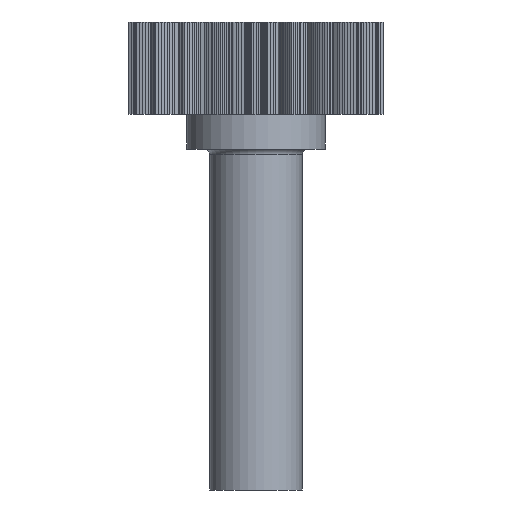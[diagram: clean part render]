
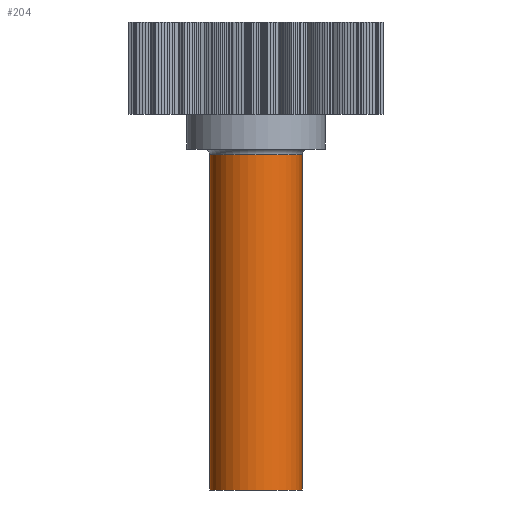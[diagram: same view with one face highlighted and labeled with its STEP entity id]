
A CAD part, front view. The second image highlights one B-rep face of the part: STEP entity #204.
In plain terms, the highlighted cylindrical face has radius 3.993 mm (diameter 7.985 mm), a full revolution.
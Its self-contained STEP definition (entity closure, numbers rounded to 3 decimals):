
#47 = TOROIDAL_SURFACE('',#48,4.493,0.5);
#48 = AXIS2_PLACEMENT_3D('',#49,#50,#51);
#49 = CARTESIAN_POINT('',(6.,0.,92.));
#50 = DIRECTION('',(0.,0.,1.));
#51 = DIRECTION('',(0.,1.,-0.));
#94 = VERTEX_POINT('',#95);
#95 = CARTESIAN_POINT('',(6.,3.993,92.));
#119 = EDGE_CURVE('',#94,#94,#120,.T.);
#120 = SURFACE_CURVE('',#121,(#126,#133),.PCURVE_S1.);
#121 = CIRCLE('',#122,3.993);
#122 = AXIS2_PLACEMENT_3D('',#123,#124,#125);
#123 = CARTESIAN_POINT('',(6.,0.,92.));
#124 = DIRECTION('',(0.,-0.,-1.));
#125 = DIRECTION('',(0.,1.,-0.));
#126 = PCURVE('',#47,#127);
#127 = DEFINITIONAL_REPRESENTATION('',(#128),#132);
#128 = LINE('',#129,#130);
#129 = CARTESIAN_POINT('',(-0.,3.142));
#130 = VECTOR('',#131,1.);
#131 = DIRECTION('',(-1.,0.));
#132 = ( GEOMETRIC_REPRESENTATION_CONTEXT(2) 
PARAMETRIC_REPRESENTATION_CONTEXT() REPRESENTATION_CONTEXT('2D SPACE',''
  ) );
#133 = PCURVE('',#134,#139);
#134 = CYLINDRICAL_SURFACE('',#135,3.993);
#135 = AXIS2_PLACEMENT_3D('',#136,#137,#138);
#136 = CARTESIAN_POINT('',(6.,0.,63.));
#137 = DIRECTION('',(-0.,0.,-1.));
#138 = DIRECTION('',(0.,1.,0.));
#139 = DEFINITIONAL_REPRESENTATION('',(#140),#144);
#140 = LINE('',#141,#142);
#141 = CARTESIAN_POINT('',(-6.283,-29.));
#142 = VECTOR('',#143,1.);
#143 = DIRECTION('',(1.,-0.));
#144 = ( GEOMETRIC_REPRESENTATION_CONTEXT(2) 
PARAMETRIC_REPRESENTATION_CONTEXT() REPRESENTATION_CONTEXT('2D SPACE',''
  ) );
#204 = ADVANCED_FACE('',(#205),#134,.T.);
#205 = FACE_BOUND('',#206,.F.);
#206 = EDGE_LOOP('',(#207,#230,#257,#258));
#207 = ORIENTED_EDGE('',*,*,#208,.F.);
#208 = EDGE_CURVE('',#209,#94,#211,.T.);
#209 = VERTEX_POINT('',#210);
#210 = CARTESIAN_POINT('',(6.,3.993,63.));
#211 = SEAM_CURVE('',#212,(#216,#223),.PCURVE_S1.);
#212 = LINE('',#213,#214);
#213 = CARTESIAN_POINT('',(6.,3.993,63.));
#214 = VECTOR('',#215,1.);
#215 = DIRECTION('',(0.,0.,1.));
#216 = PCURVE('',#134,#217);
#217 = DEFINITIONAL_REPRESENTATION('',(#218),#222);
#218 = LINE('',#219,#220);
#219 = CARTESIAN_POINT('',(-6.283,0.));
#220 = VECTOR('',#221,1.);
#221 = DIRECTION('',(-0.,-1.));
#222 = ( GEOMETRIC_REPRESENTATION_CONTEXT(2) 
PARAMETRIC_REPRESENTATION_CONTEXT() REPRESENTATION_CONTEXT('2D SPACE',''
  ) );
#223 = PCURVE('',#134,#224);
#224 = DEFINITIONAL_REPRESENTATION('',(#225),#229);
#225 = LINE('',#226,#227);
#226 = CARTESIAN_POINT('',(-0.,0.));
#227 = VECTOR('',#228,1.);
#228 = DIRECTION('',(-0.,-1.));
#229 = ( GEOMETRIC_REPRESENTATION_CONTEXT(2) 
PARAMETRIC_REPRESENTATION_CONTEXT() REPRESENTATION_CONTEXT('2D SPACE',''
  ) );
#230 = ORIENTED_EDGE('',*,*,#231,.F.);
#231 = EDGE_CURVE('',#209,#209,#232,.T.);
#232 = SURFACE_CURVE('',#233,(#238,#245),.PCURVE_S1.);
#233 = CIRCLE('',#234,3.993);
#234 = AXIS2_PLACEMENT_3D('',#235,#236,#237);
#235 = CARTESIAN_POINT('',(6.,0.,63.));
#236 = DIRECTION('',(0.,-0.,1.));
#237 = DIRECTION('',(0.,1.,0.));
#238 = PCURVE('',#134,#239);
#239 = DEFINITIONAL_REPRESENTATION('',(#240),#244);
#240 = LINE('',#241,#242);
#241 = CARTESIAN_POINT('',(-0.,0.));
#242 = VECTOR('',#243,1.);
#243 = DIRECTION('',(-1.,0.));
#244 = ( GEOMETRIC_REPRESENTATION_CONTEXT(2) 
PARAMETRIC_REPRESENTATION_CONTEXT() REPRESENTATION_CONTEXT('2D SPACE',''
  ) );
#245 = PCURVE('',#246,#251);
#246 = PLANE('',#247);
#247 = AXIS2_PLACEMENT_3D('',#248,#249,#250);
#248 = CARTESIAN_POINT('',(6.,0.,63.));
#249 = DIRECTION('',(0.,0.,1.));
#250 = DIRECTION('',(1.,0.,-0.));
#251 = DEFINITIONAL_REPRESENTATION('',(#252),#256);
#252 = CIRCLE('',#253,3.993);
#253 = AXIS2_PLACEMENT_2D('',#254,#255);
#254 = CARTESIAN_POINT('',(0.,0.));
#255 = DIRECTION('',(0.,1.));
#256 = ( GEOMETRIC_REPRESENTATION_CONTEXT(2) 
PARAMETRIC_REPRESENTATION_CONTEXT() REPRESENTATION_CONTEXT('2D SPACE',''
  ) );
#257 = ORIENTED_EDGE('',*,*,#208,.T.);
#258 = ORIENTED_EDGE('',*,*,#119,.F.);
